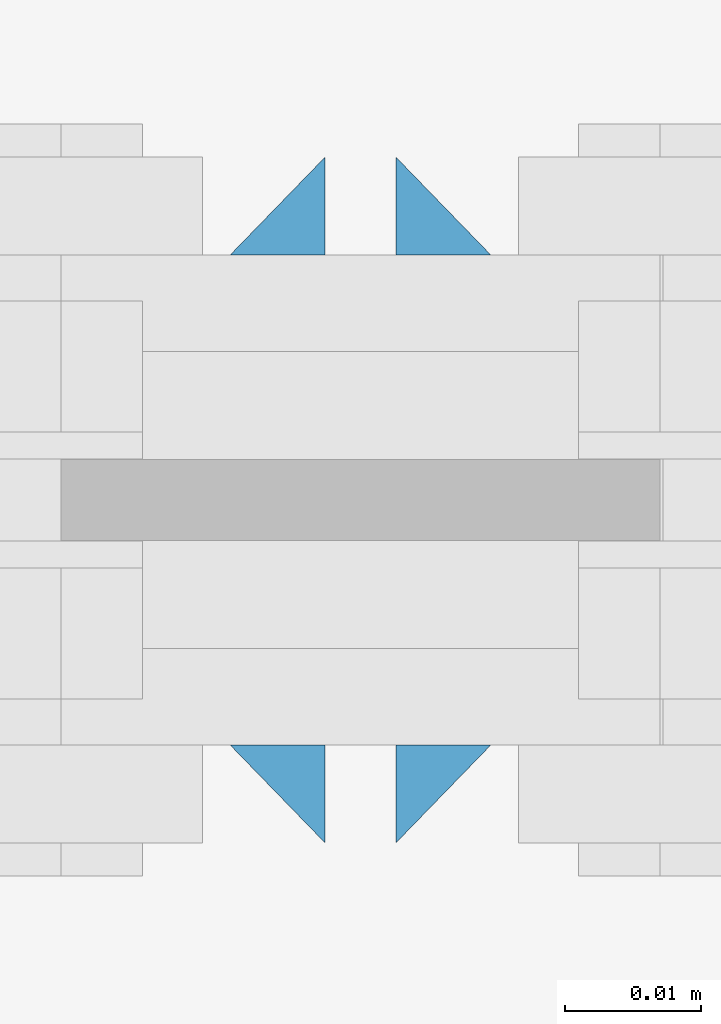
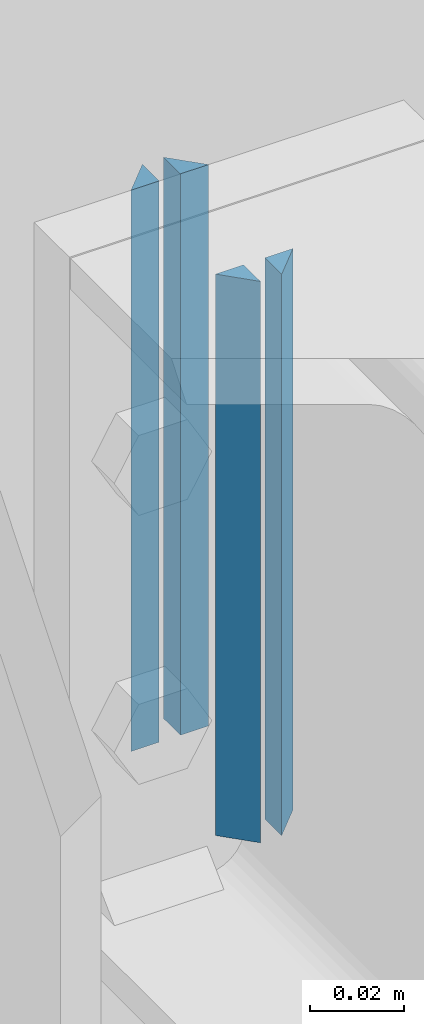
# One storey, part 36 of 251: 8 fasteners.
"""IFC4 building model written with IfcOpenShell, lengths in metres."""

from ifc_helpers import new_model, si_unit, frame, origin_with_axes, place, context, project, spatial, polyline, outline, extrude, type_object, element, save


model = new_model("IFC4")

# Units and contexts
model_context = context("Model", 3, precision=1e-05, world=origin_with_axes())
ifc_project = project(units=[si_unit("LENGTHUNIT", "METRE"), si_unit("AREAUNIT", "SQUARE_METRE"), si_unit("VOLUMEUNIT", "CUBIC_METRE"), si_unit("MASSUNIT", "GRAM", prefix="KILO"), si_unit("TIMEUNIT", "SECOND"), si_unit("PLANEANGLEUNIT", "RADIAN"), si_unit("SOLIDANGLEUNIT", "STERADIAN"), si_unit("THERMODYNAMICTEMPERATUREUNIT", "DEGREE_CELSIUS")], contexts=[model_context])

# Site, building, storey
placement_1 = place(None, origin_with_axes())
site = spatial("IfcSite", under=ifc_project, at=placement_1, Name="Italia", CompositionType="ELEMENT")
building = spatial("IfcBuilding", under=site, at=placement_1, Name="Deposito", CompositionType="ELEMENT")
storey = spatial("IfcBuildingStorey", under=building, at=placement_1, Name="Storey 0", CompositionType="ELEMENT", Elevation=0.0)

# Fasteners
fastener_type_1 = type_object("IfcFastenerType", Name="Collegamento -072_-071", PredefinedType="WELD")
placement_2 = place(placement_1, origin_with_axes())
fastener_1_placement = place(placement_2, origin_with_axes())
element("IfcFastener", 1, at=fastener_1_placement, inside=storey, type_object=fastener_type_1, Name="Collegamento -072_-071", context=model_context, shape_type="SweptSolid", body=[
    extrude(outline(polyline([(0.0, 0.0), (-0.00717354, 0.00695801), (0.0, 0.00695801), (0.0, 0.0)])), frame((6.04044, 14.982, 6.89323), z_axis=(0.0, 0.0, -1.0), x_axis=(0.0, 1.0, 0.0)), (0.0, 0.0, 1.0), 0.146099),
])
fastener_type_2 = type_object("IfcFastenerType", Name="Collegamento -072_-071", PredefinedType="WELD")
fastener_2_placement = place(placement_2, origin_with_axes())
element("IfcFastener", 2, at=fastener_2_placement, inside=storey, type_object=fastener_type_2, Name="Collegamento -072_-071", context=model_context, shape_type="SweptSolid", body=[
    extrude(outline(polyline([(0.0, 0.0), (-0.00717354, 0.00695801), (0.0, 0.00695801), (0.0, 0.0)])), frame((6.05956, 14.982, 6.74713), z_axis=(0.0, 0.0, 1.0), x_axis=(0.0, 1.0, 0.0)), (0.0, 0.0, 1.0), 0.146099),
])
fastener_type_3 = type_object("IfcFastenerType", Name="Collegamento -072_-071", PredefinedType="WELD")
fastener_3_placement = place(placement_2, origin_with_axes())
element("IfcFastener", 3, at=fastener_3_placement, inside=storey, type_object=fastener_type_3, Name="Collegamento -072_-071", context=model_context, shape_type="SweptSolid", body=[
    extrude(outline(polyline([(0.0, 0.0), (-0.00717354, 0.00695801), (0.0, 0.00695801), (0.0, 0.0)])), frame((6.04044, 14.982, 6.89323), z_axis=(0.0, 0.0, -1.0), x_axis=(0.0, 1.0, 0.0)), (0.0, 0.0, 1.0), 0.146099),
])
fastener_type_4 = type_object("IfcFastenerType", Name="Collegamento -072_-071", PredefinedType="WELD")
fastener_4_placement = place(placement_2, origin_with_axes())
element("IfcFastener", 4, at=fastener_4_placement, inside=storey, type_object=fastener_type_4, Name="Collegamento -072_-071", context=model_context, shape_type="SweptSolid", body=[
    extrude(outline(polyline([(0.0, 0.0), (-0.00717354, 0.00695801), (0.0, 0.00695801), (0.0, 0.0)])), frame((6.05956, 14.982, 6.74713), z_axis=(0.0, 0.0, 1.0), x_axis=(0.0, 1.0, 0.0)), (0.0, 0.0, 1.0), 0.146099),
])
fastener_type_5 = type_object("IfcFastenerType", Name="Collegamento -072_-073", PredefinedType="WELD")
fastener_5_placement = place(placement_2, origin_with_axes())
element("IfcFastener", 5, at=fastener_5_placement, inside=storey, type_object=fastener_type_5, Name="Collegamento -072_-073", context=model_context, shape_type="SweptSolid", body=[
    extrude(outline(polyline([(0.0, 0.0), (0.00717354, -0.00695801), (0.0, -0.00695801), (0.0, 0.0)])), frame((6.04044, 15.018, 6.74713), z_axis=(0.0, 0.0, 1.0), x_axis=(0.0, 1.0, 0.0)), (0.0, 0.0, 1.0), 0.146099),
])
fastener_type_6 = type_object("IfcFastenerType", Name="Collegamento -072_-073", PredefinedType="WELD")
fastener_6_placement = place(placement_2, origin_with_axes())
element("IfcFastener", 6, at=fastener_6_placement, inside=storey, type_object=fastener_type_6, Name="Collegamento -072_-073", context=model_context, shape_type="SweptSolid", body=[
    extrude(outline(polyline([(0.0, 0.0), (0.00717354, -0.00695801), (0.0, -0.00695801), (0.0, 0.0)])), frame((6.05956, 15.018, 6.89323), z_axis=(0.0, 0.0, -1.0), x_axis=(0.0, 1.0, 0.0)), (0.0, 0.0, 1.0), 0.146099),
])
fastener_type_7 = type_object("IfcFastenerType", Name="Collegamento -072_-073", PredefinedType="WELD")
fastener_7_placement = place(placement_2, origin_with_axes())
element("IfcFastener", 7, at=fastener_7_placement, inside=storey, type_object=fastener_type_7, Name="Collegamento -072_-073", context=model_context, shape_type="SweptSolid", body=[
    extrude(outline(polyline([(0.0, 0.0), (0.00717354, -0.00695801), (0.0, -0.00695801), (0.0, 0.0)])), frame((6.04044, 15.018, 6.74713), z_axis=(0.0, 0.0, 1.0), x_axis=(0.0, 1.0, 0.0)), (0.0, 0.0, 1.0), 0.146099),
])
fastener_type_8 = type_object("IfcFastenerType", Name="Collegamento -072_-073", PredefinedType="WELD")
fastener_8_placement = place(placement_2, origin_with_axes())
element("IfcFastener", 8, at=fastener_8_placement, inside=storey, type_object=fastener_type_8, Name="Collegamento -072_-073", context=model_context, shape_type="SweptSolid", body=[
    extrude(outline(polyline([(0.0, 0.0), (0.00717354, -0.00695801), (0.0, -0.00695801), (0.0, 0.0)])), frame((6.05956, 15.018, 6.89323), z_axis=(0.0, 0.0, -1.0), x_axis=(0.0, 1.0, 0.0)), (0.0, 0.0, 1.0), 0.146099),
])

save(model, "model.ifc")
